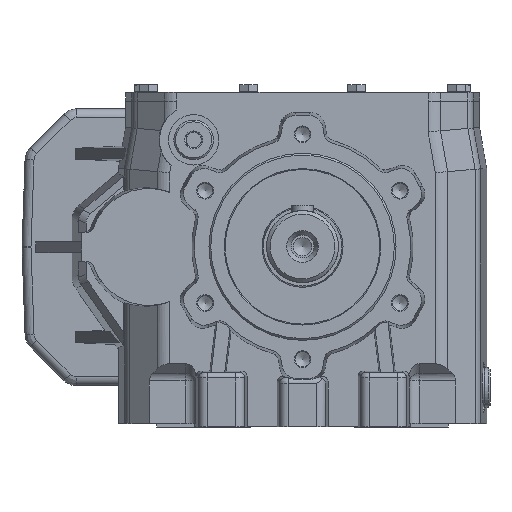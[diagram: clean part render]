
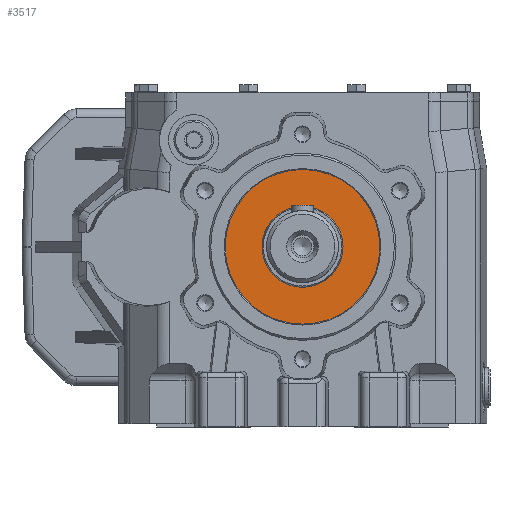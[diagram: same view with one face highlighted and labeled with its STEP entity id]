
A CAD part, top view. The second image highlights one B-rep face of the part: STEP entity #3517.
In plain terms, the highlighted planar face has unit normal (0, 0, 1).
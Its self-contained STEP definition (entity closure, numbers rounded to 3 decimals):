
#3517 = ADVANCED_FACE( '', ( #7438, #7439 ), #7440, .F. );
#7438 = FACE_BOUND( '', #17728, .T. );
#7439 = FACE_OUTER_BOUND( '', #17729, .T. );
#7440 = PLANE( '', #17730 );
#17728 = EDGE_LOOP( '', ( #27553 ) );
#17729 = EDGE_LOOP( '', ( #27554 ) );
#17730 = AXIS2_PLACEMENT_3D( '', #27555, #27556, #27557 );
#27553 = ORIENTED_EDGE( '', *, *, #29948, .F. );
#27554 = ORIENTED_EDGE( '', *, *, #31387, .T. );
#27555 = CARTESIAN_POINT( '', ( 0., 42.5, 12.5 ) );
#27556 = DIRECTION( '', ( 0., 0., -1. ) );
#27557 = DIRECTION( '', ( 1., 0., 0. ) );
#29948 = EDGE_CURVE( '', #34843, #34843, #34844, .T. );
#31387 = EDGE_CURVE( '', #36761, #36761, #36762, .F. );
#34843 = VERTEX_POINT( '', #43159 );
#34844 = CIRCLE( '', #43160, 22.5 );
#36761 = VERTEX_POINT( '', #46649 );
#36762 = CIRCLE( '', #46650, 43. );
#43159 = CARTESIAN_POINT( '', ( 22.5, 0., 12.5 ) );
#43160 = AXIS2_PLACEMENT_3D( '', #49709, #49710, #49711 );
#46649 = CARTESIAN_POINT( '', ( 0., 43., 12.5 ) );
#46650 = AXIS2_PLACEMENT_3D( '', #51288, #51289, #51290 );
#49709 = CARTESIAN_POINT( '', ( 0., 0., 12.5 ) );
#49710 = DIRECTION( '', ( 0., 0., 1. ) );
#49711 = DIRECTION( '', ( 1., 0., 0. ) );
#51288 = CARTESIAN_POINT( '', ( 0., 0., 12.5 ) );
#51289 = DIRECTION( '', ( 0., 0., -1. ) );
#51290 = DIRECTION( '', ( 0., 1., 0. ) );
